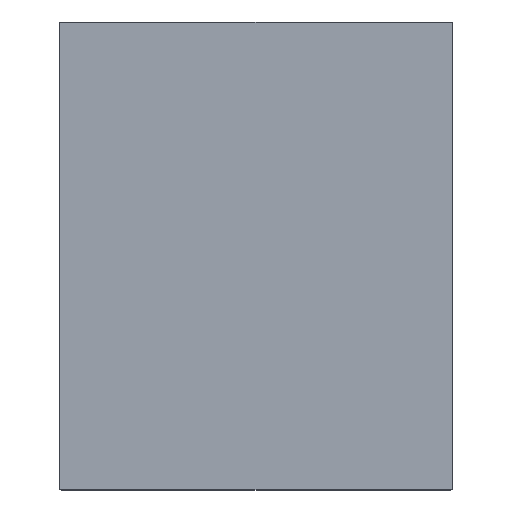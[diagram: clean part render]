
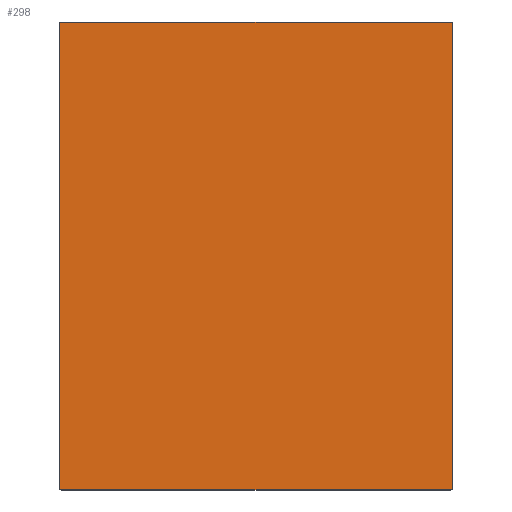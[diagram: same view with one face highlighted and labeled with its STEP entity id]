
A CAD part, top view. The second image highlights one B-rep face of the part: STEP entity #298.
In plain terms, the highlighted planar face has unit normal (0, 0, 1).
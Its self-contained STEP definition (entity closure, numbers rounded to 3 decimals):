
#54=AXIS2_PLACEMENT_3D('Circle Axis2P3D',#52,#53,$) ;
#109=AXIS2_PLACEMENT_3D('Circle Axis2P3D',#107,#108,$) ;
#171=AXIS2_PLACEMENT_3D('Circle Axis2P3D',#169,#170,$) ;
#281=AXIS2_PLACEMENT_3D('Plane Axis2P3D',#278,#279,#280) ;
#285=AXIS2_PLACEMENT_3D('Circle Axis2P3D',#283,#284,$) ;
#49=CARTESIAN_POINT('Vertex',(-2.5,310.,4.)) ;
#52=CARTESIAN_POINT('Axis2P3D Location',(-2.5,307.5,4.)) ;
#56=CARTESIAN_POINT('Vertex',(0.,307.5,4.)) ;
#76=CARTESIAN_POINT('Line Origine',(-260.,310.,4.)) ;
#80=CARTESIAN_POINT('Vertex',(-517.5,310.,4.)) ;
#107=CARTESIAN_POINT('Axis2P3D Location',(-517.5,307.5,4.)) ;
#111=CARTESIAN_POINT('Vertex',(-520.,307.5,4.)) ;
#138=CARTESIAN_POINT('Line Origine',(-520.,0.,4.)) ;
#142=CARTESIAN_POINT('Vertex',(-520.,-307.5,4.)) ;
#169=CARTESIAN_POINT('Axis2P3D Location',(-517.5,-307.5,4.)) ;
#173=CARTESIAN_POINT('Vertex',(-517.5,-310.,4.)) ;
#207=CARTESIAN_POINT('Line Origine',(0.,0.,4.)) ;
#211=CARTESIAN_POINT('Vertex',(0.,-307.5,4.)) ;
#235=CARTESIAN_POINT('Vertex',(-2.5,-310.,4.)) ;
#240=CARTESIAN_POINT('Line Origine',(-260.,-310.,4.)) ;
#278=CARTESIAN_POINT('Axis2P3D Location',(-520.,0.,4.)) ;
#283=CARTESIAN_POINT('Axis2P3D Location',(-2.5,-307.5,4.)) ;
#53=DIRECTION('Axis2P3D Direction',(0.,0.,1.)) ;
#77=DIRECTION('Vector Direction',(1.,0.,0.)) ;
#108=DIRECTION('Axis2P3D Direction',(0.,0.,1.)) ;
#139=DIRECTION('Vector Direction',(0.,1.,0.)) ;
#170=DIRECTION('Axis2P3D Direction',(0.,0.,1.)) ;
#208=DIRECTION('Vector Direction',(0.,1.,0.)) ;
#241=DIRECTION('Vector Direction',(1.,0.,0.)) ;
#279=DIRECTION('Axis2P3D Direction',(0.,0.,1.)) ;
#280=DIRECTION('Axis2P3D XDirection',(1.,0.,0.)) ;
#284=DIRECTION('Axis2P3D Direction',(0.,0.,1.)) ;
#78=VECTOR('Line Direction',#77,1.) ;
#140=VECTOR('Line Direction',#139,1.) ;
#209=VECTOR('Line Direction',#208,1.) ;
#242=VECTOR('Line Direction',#241,1.) ;
#289=ORIENTED_EDGE('',*,*,#213,.T.) ;
#290=ORIENTED_EDGE('',*,*,#58,.F.) ;
#291=ORIENTED_EDGE('',*,*,#82,.F.) ;
#292=ORIENTED_EDGE('',*,*,#113,.F.) ;
#293=ORIENTED_EDGE('',*,*,#144,.F.) ;
#294=ORIENTED_EDGE('',*,*,#175,.F.) ;
#295=ORIENTED_EDGE('',*,*,#244,.T.) ;
#296=ORIENTED_EDGE('',*,*,#287,.F.) ;
#298=ADVANCED_FACE('Glaskeramik',(#297),#282,.T.) ;
#55=CIRCLE('generated circle',#54,2.5) ;
#110=CIRCLE('generated circle',#109,2.5) ;
#172=CIRCLE('generated circle',#171,2.5) ;
#286=CIRCLE('generated circle',#285,2.5) ;
#58=EDGE_CURVE('',#50,#57,#55,.F.) ;
#82=EDGE_CURVE('',#81,#50,#79,.T.) ;
#113=EDGE_CURVE('',#112,#81,#110,.F.) ;
#144=EDGE_CURVE('',#143,#112,#141,.T.) ;
#175=EDGE_CURVE('',#174,#143,#172,.F.) ;
#213=EDGE_CURVE('',#212,#57,#210,.T.) ;
#244=EDGE_CURVE('',#174,#236,#243,.T.) ;
#287=EDGE_CURVE('',#212,#236,#286,.F.) ;
#288=EDGE_LOOP('',(#289,#290,#291,#292,#293,#294,#295,#296)) ;
#297=FACE_OUTER_BOUND('',#288,.T.) ;
#79=LINE('Line',#76,#78) ;
#141=LINE('Line',#138,#140) ;
#210=LINE('Line',#207,#209) ;
#243=LINE('Line',#240,#242) ;
#282=PLANE('',#281) ;
#50=VERTEX_POINT('',#49) ;
#57=VERTEX_POINT('',#56) ;
#81=VERTEX_POINT('',#80) ;
#112=VERTEX_POINT('',#111) ;
#143=VERTEX_POINT('',#142) ;
#174=VERTEX_POINT('',#173) ;
#212=VERTEX_POINT('',#211) ;
#236=VERTEX_POINT('',#235) ;
